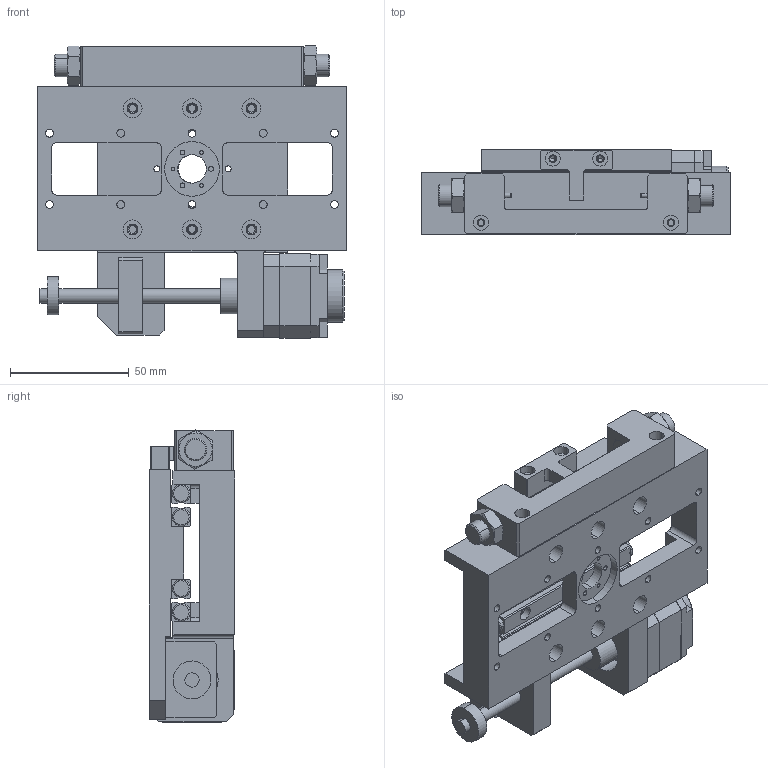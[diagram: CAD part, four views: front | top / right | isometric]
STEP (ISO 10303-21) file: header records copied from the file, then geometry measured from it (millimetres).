
FILE_DESCRIPTION (( 'STEP AP214' ), '1' );
FILE_NAME ('VSM17-X-050-LS STEP.STEP', '2022-12-15T12:38:30', ( '' ), ( '' ), 'SwSTEP 2.0', 'SolidWorks 2022', '' );
FILE_SCHEMA (( 'AUTOMOTIVE_DESIGN' ));
Length unit declared in the file: millimetre
Products named in the file (11): Simplified VSM17-X-050 Base V2; 3-8 UNF Nut; Simplified Motor_H; Simplified Limit Switch; Simplified Leadscrew Nut; Simplified VSM17-X-050 Carriage; VSM17-X-050-LS STEP; Simplified Bearing 050; VSM17-X-050 Limit switch mounting block; Simplified Drivetrain_VSM17-X-50; Simplified VSM17-X LS Actuator
Assembly tree (15 placements, depth 2):
  VSM17-X-050-LS STEP
    Simplified VSM17-X-050 Base V2
    Simplified Bearing 050  x4
    Simplified Motor_H
    Simplified Drivetrain_VSM17-X-50
    Simplified VSM17-X-050 Carriage
    Simplified Leadscrew Nut
    VSM17-X-050 Limit switch mounting block
    Simplified VSM17-X LS Actuator
    Simplified Limit Switch  x2
    3-8 UNF Nut  x2
Bounding box: 130 x 36 x 122.95 mm (x, y, z)
Volume: 263774.6 mm3; surface area: 95861.1 mm2
Topology: 15 solids, 15 shells, 673 faces, 1698 edges, 1090 vertices
Faces by surface type: plane 293, cylinder 290, cone 70, torus 20
Entity records: 16642 total; most frequent: CARTESIAN_POINT 2828, DIRECTION 2713, ORIENTED_EDGE 2460, EDGE_CURVE 1230, AXIS2_PLACEMENT_3D 1004, VERTEX_POINT 807, VECTOR 705, LINE 705
